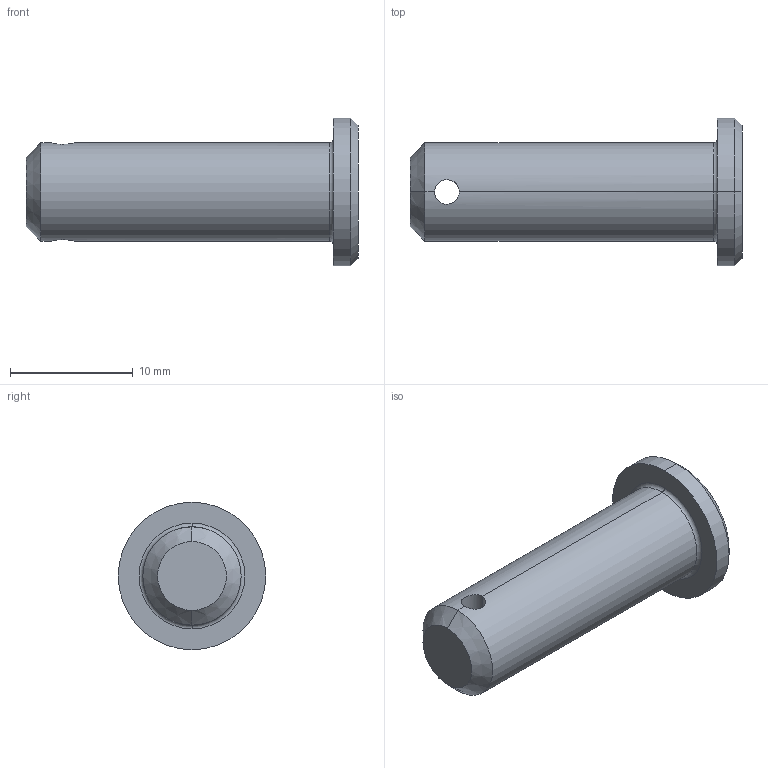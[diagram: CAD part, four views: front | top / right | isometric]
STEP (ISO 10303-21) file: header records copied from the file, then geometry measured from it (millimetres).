
FILE_DESCRIPTION (( 'STEP AP203' ), '1' );
FILE_NAME ('Wiberger-sms2360_8x25.step', '2012-10-09T08:58:50', ( 'Magnus' ), ( 'Wiberger' ), 'SwSTEP 2.0', 'SolidWorks 2011', '' );
FILE_SCHEMA (( 'CONFIG_CONTROL_DESIGN' ));
Length unit declared in the file: millimetre
Products named in the file (1): Wiberger-sms2360_8x25
Bounding box: 27 x 12 x 12 mm (x, y, z)
Volume: 1435.5 mm3; surface area: 936.6 mm2
Topology: 1 solids, 1 shells, 15 faces, 32 edges, 18 vertices
Faces by surface type: cylinder 6, cone 4, plane 3, torus 2
Entity records: 543 total; most frequent: CARTESIAN_POINT 134, DIRECTION 76, ORIENTED_EDGE 64, AXIS2_PLACEMENT_3D 32, EDGE_CURVE 32, VERTEX_POINT 18, EDGE_LOOP 16, CIRCLE 16
